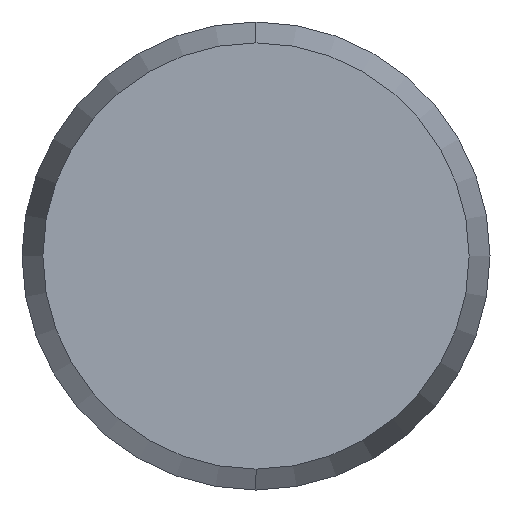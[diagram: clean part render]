
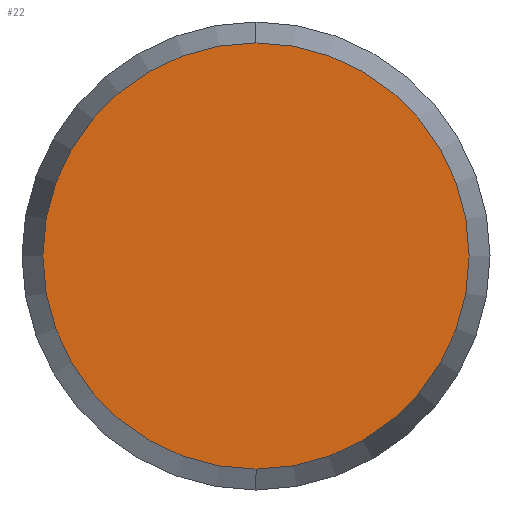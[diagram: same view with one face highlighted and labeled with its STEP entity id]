
A CAD part, left-side view. The second image highlights one B-rep face of the part: STEP entity #22.
In plain terms, the highlighted planar face has unit normal (-1, 0, 0).
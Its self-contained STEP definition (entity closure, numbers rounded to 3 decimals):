
#6 = DIRECTION ( 'NONE',  ( 0., 0., -1. ) ) ;
#7 = DIRECTION ( 'NONE',  ( 1., 0., 0. ) ) ;
#8 = CARTESIAN_POINT ( 'NONE',  ( -2.5, 0., 0. ) ) ;
#9 = AXIS2_PLACEMENT_3D ( 'NONE', #8, #7, #6 ) ;
#10 = PLANE ( 'NONE',  #9 ) ;
#11 = DIRECTION ( 'NONE',  ( 0., 0., -1. ) ) ;
#12 = DIRECTION ( 'NONE',  ( 1., 0., 0. ) ) ;
#13 = CARTESIAN_POINT ( 'NONE',  ( -2.5, 0., 0. ) ) ;
#14 = AXIS2_PLACEMENT_3D ( 'NONE', #13, #12, #11 ) ;
#15 = CIRCLE ( 'NONE', #14, 1.366 ) ;
#16 = FACE_OUTER_BOUND ( 'NONE', #19, .T. ) ;
#19 = EDGE_LOOP ( 'NONE', ( #23, #24 ) ) ;
#20 = EDGE_CURVE ( 'NONE', #152, #151, #15, .T. ) ;
#22 = ADVANCED_FACE ( 'NONE', ( #16 ), #10, .F. ) ;
#23 = ORIENTED_EDGE ( 'NONE', *, *, #150, .F. ) ;
#24 = ORIENTED_EDGE ( 'NONE', *, *, #20, .F. ) ;
#32 = CARTESIAN_POINT ( 'NONE',  ( -2.5, 0., -1.366 ) ) ;
#33 = CARTESIAN_POINT ( 'NONE',  ( -2.5, 0., 1.366 ) ) ;
#34 = DIRECTION ( 'NONE',  ( 0., 0., -1. ) ) ;
#35 = DIRECTION ( 'NONE',  ( 1., 0., 0. ) ) ;
#36 = CARTESIAN_POINT ( 'NONE',  ( -2.5, 0., 0. ) ) ;
#37 = AXIS2_PLACEMENT_3D ( 'NONE', #36, #35, #34 ) ;
#38 = CIRCLE ( 'NONE', #37, 1.366 ) ;
#150 = EDGE_CURVE ( 'NONE', #151, #152, #38, .T. ) ;
#151 = VERTEX_POINT ( 'NONE', #33 ) ;
#152 = VERTEX_POINT ( 'NONE', #32 ) ;
